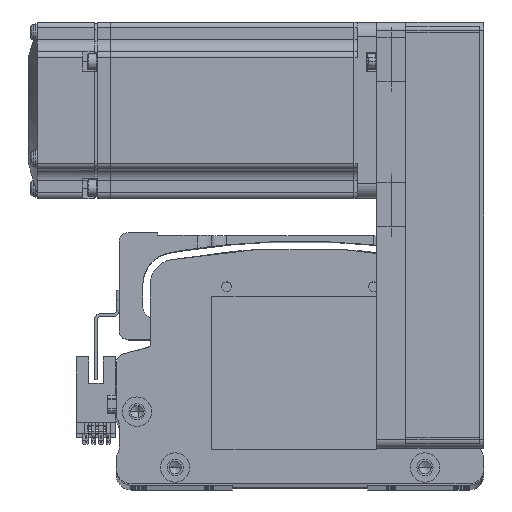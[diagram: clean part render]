
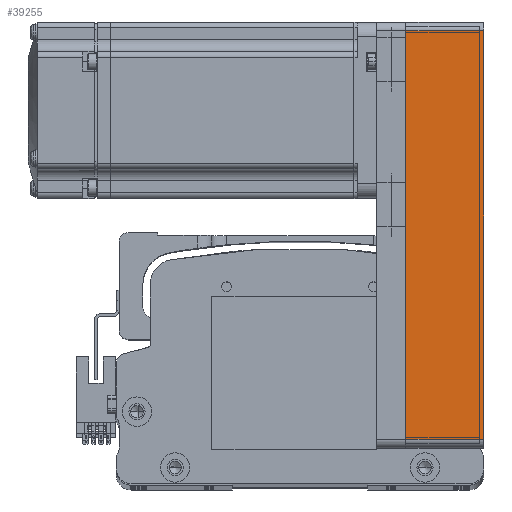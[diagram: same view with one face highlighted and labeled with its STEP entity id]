
A CAD part, top view. The second image highlights one B-rep face of the part: STEP entity #39255.
In plain terms, the highlighted planar face has unit normal (0, 0, 1) as drawn and (0, 1, 0) by its records, which use the part's own axes.
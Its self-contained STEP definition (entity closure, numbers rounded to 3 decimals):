
#82 = ORIENTED_EDGE ( 'NONE', *, *, #47078, .T. ) ;
#332 = CARTESIAN_POINT ( 'NONE',  ( 72.5, 30., 0. ) ) ;
#1692 = DIRECTION ( 'NONE',  ( 0., 0., -1. ) ) ;
#4828 = EDGE_LOOP ( 'NONE', ( #23868, #30479, #23167, #82 ) ) ;
#5975 = LINE ( 'NONE', #74122, #15103 ) ;
#6268 = CARTESIAN_POINT ( 'NONE',  ( 69.5, 30., 26.5 ) ) ;
#7953 = VECTOR ( 'NONE', #82840, 1000. ) ;
#11176 = DIRECTION ( 'NONE',  ( 0., -1., 0. ) ) ;
#15103 = VECTOR ( 'NONE', #24231, 1000. ) ;
#20662 = CARTESIAN_POINT ( 'NONE',  ( -69.5, 30., 26.5 ) ) ;
#23167 = ORIENTED_EDGE ( 'NONE', *, *, #50011, .F. ) ;
#23448 = VERTEX_POINT ( 'NONE', #24550 ) ;
#23868 = ORIENTED_EDGE ( 'NONE', *, *, #45837, .T. ) ;
#24231 = DIRECTION ( 'NONE',  ( -1., 0., 0. ) ) ;
#24550 = CARTESIAN_POINT ( 'NONE',  ( -69.5, 30., 0. ) ) ;
#25258 = CARTESIAN_POINT ( 'NONE',  ( 69.5, 30., 0. ) ) ;
#27863 = VECTOR ( 'NONE', #1692, 1000. ) ;
#29898 = LINE ( 'NONE', #73346, #27863 ) ;
#30479 = ORIENTED_EDGE ( 'NONE', *, *, #67109, .T. ) ;
#39255 = ADVANCED_FACE ( 'NONE', ( #49111 ), #62554, .F. ) ;
#40192 = VECTOR ( 'NONE', #71417, 1000. ) ;
#44179 = CARTESIAN_POINT ( 'NONE',  ( -69.5, 30., 26.5 ) ) ;
#45837 = EDGE_CURVE ( 'NONE', #82087, #23448, #57382, .T. ) ;
#47078 = EDGE_CURVE ( 'NONE', #60633, #82087, #29898, .T. ) ;
#47122 = AXIS2_PLACEMENT_3D ( 'NONE', #49839, #11176, #56327 ) ;
#49111 = FACE_OUTER_BOUND ( 'NONE', #4828, .T. ) ;
#49839 = CARTESIAN_POINT ( 'NONE',  ( 72.5, 30., 26.5 ) ) ;
#50011 = EDGE_CURVE ( 'NONE', #60633, #60785, #5975, .T. ) ;
#56327 = DIRECTION ( 'NONE',  ( 1., 0., 0. ) ) ;
#57382 = LINE ( 'NONE', #332, #40192 ) ;
#60633 = VERTEX_POINT ( 'NONE', #6268 ) ;
#60785 = VERTEX_POINT ( 'NONE', #20662 ) ;
#62554 = PLANE ( 'NONE',  #47122 ) ;
#63534 = LINE ( 'NONE', #44179, #7953 ) ;
#67109 = EDGE_CURVE ( 'NONE', #23448, #60785, #63534, .T. ) ;
#71417 = DIRECTION ( 'NONE',  ( -1., 0., 0. ) ) ;
#73346 = CARTESIAN_POINT ( 'NONE',  ( 69.5, 30., 26.5 ) ) ;
#74122 = CARTESIAN_POINT ( 'NONE',  ( 72.5, 30., 26.5 ) ) ;
#82087 = VERTEX_POINT ( 'NONE', #25258 ) ;
#82840 = DIRECTION ( 'NONE',  ( 0., 0., 1. ) ) ;
